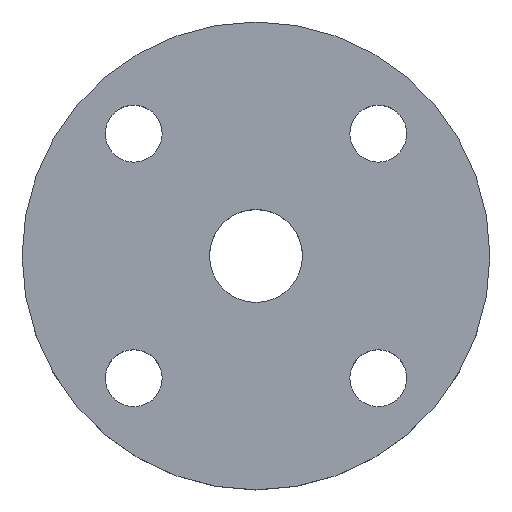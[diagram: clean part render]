
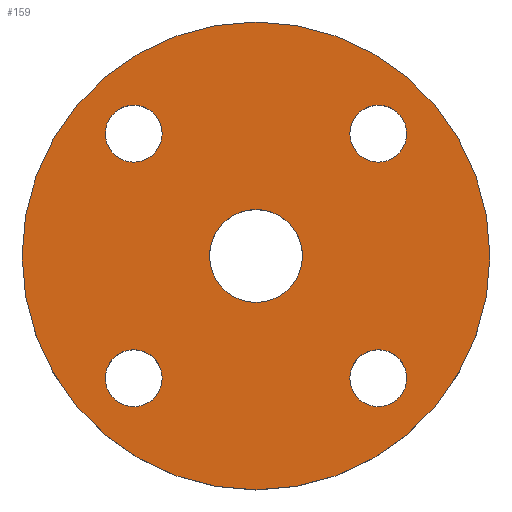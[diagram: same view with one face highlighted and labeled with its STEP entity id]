
A CAD part, top view. The second image highlights one B-rep face of the part: STEP entity #159.
In plain terms, the highlighted planar face has unit normal (0, 0, 1).
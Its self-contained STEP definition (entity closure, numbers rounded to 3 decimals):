
#5 = CIRCLE ( 'NONE', #183, 7. ) ;
#6 = EDGE_CURVE ( 'NONE', #451, #445, #265, .T. ) ;
#10 = AXIS2_PLACEMENT_3D ( 'NONE', #555, #556, #557 ) ;
#17 = AXIS2_PLACEMENT_3D ( 'NONE', #591, #593, #594 ) ;
#24 = AXIS2_PLACEMENT_3D ( 'NONE', #465, #466, #467 ) ;
#26 = CIRCLE ( 'NONE', #232, 7. ) ;
#30 = AXIS2_PLACEMENT_3D ( 'NONE', #188, #189, #190 ) ;
#35 = AXIS2_PLACEMENT_3D ( 'NONE', #177, #178, #182 ) ;
#45 = EDGE_CURVE ( 'NONE', #300, #297, #270, .T. ) ;
#57 = CIRCLE ( 'NONE', #592, 7. ) ;
#67 = EDGE_CURVE ( 'NONE', #313, #446, #5, .T. ) ;
#80 = CARTESIAN_POINT ( 'NONE',  ( 11.418, 0., 0. ) ) ;
#84 = CARTESIAN_POINT ( 'NONE',  ( 23.052, -30.052, 0. ) ) ;
#88 = EDGE_CURVE ( 'NONE', #296, #452, #171, .T. ) ;
#96 = AXIS2_PLACEMENT_3D ( 'NONE', #615, #616, #617 ) ;
#98 = AXIS2_PLACEMENT_3D ( 'NONE', #491, #492, #493 ) ;
#118 = CIRCLE ( 'NONE', #35, 7. ) ;
#119 = CARTESIAN_POINT ( 'NONE',  ( 37.052, 30.052, 0. ) ) ;
#138 = CARTESIAN_POINT ( 'NONE',  ( 23.052, 30.052, 0. ) ) ;
#146 = CARTESIAN_POINT ( 'NONE',  ( -37.052, -30.052, 0. ) ) ;
#147 = CARTESIAN_POINT ( 'NONE',  ( 57.5, 0., 0. ) ) ;
#151 = CARTESIAN_POINT ( 'NONE',  ( -57.5, 0., 0. ) ) ;
#155 = CARTESIAN_POINT ( 'NONE',  ( -23.052, 30.052, 0. ) ) ;
#159 = ADVANCED_FACE ( 'NONE', ( #547, #548, #549, #551, #552, #553 ), #554, .T. ) ;
#170 = AXIS2_PLACEMENT_3D ( 'NONE', #519, #520, #521 ) ;
#171 = CIRCLE ( 'NONE', #170, 7. ) ;
#177 = CARTESIAN_POINT ( 'NONE',  ( 30.052, -30.052, 0. ) ) ;
#178 = DIRECTION ( 'NONE',  ( 0., 0., -1. ) ) ;
#182 = DIRECTION ( 'NONE',  ( -1., 0., 0. ) ) ;
#183 = AXIS2_PLACEMENT_3D ( 'NONE', #512, #513, #514 ) ;
#185 = CARTESIAN_POINT ( 'NONE',  ( 30.052, 30.052, 0. ) ) ;
#186 = DIRECTION ( 'NONE',  ( 0., 0., -1. ) ) ;
#187 = DIRECTION ( 'NONE',  ( -1., 0., 0. ) ) ;
#188 = CARTESIAN_POINT ( 'NONE',  ( 0., 0., 0. ) ) ;
#189 = DIRECTION ( 'NONE',  ( 0., 0., 1. ) ) ;
#190 = DIRECTION ( 'NONE',  ( 1., 0., 0. ) ) ;
#203 = CIRCLE ( 'NONE', #17, 7. ) ;
#205 = CIRCLE ( 'NONE', #263, 7. ) ;
#215 = EDGE_CURVE ( 'NONE', #446, #313, #203, .T. ) ;
#222 = CARTESIAN_POINT ( 'NONE',  ( 37.052, -30.052, 0. ) ) ;
#224 = CARTESIAN_POINT ( 'NONE',  ( -11.418, 0., 0. ) ) ;
#225 = CARTESIAN_POINT ( 'NONE',  ( -37.052, 30.052, 0. ) ) ;
#232 = AXIS2_PLACEMENT_3D ( 'NONE', #640, #641, #642 ) ;
#239 = CIRCLE ( 'NONE', #96, 57.5 ) ;
#252 = CARTESIAN_POINT ( 'NONE',  ( -23.052, -30.052, 0. ) ) ;
#253 = EDGE_CURVE ( 'NONE', #452, #296, #578, .T. ) ;
#259 = AXIS2_PLACEMENT_3D ( 'NONE', #604, #605, #607 ) ;
#260 = EDGE_CURVE ( 'NONE', #297, #300, #239, .T. ) ;
#263 = AXIS2_PLACEMENT_3D ( 'NONE', #185, #186, #187 ) ;
#265 = CIRCLE ( 'NONE', #24, 11.418 ) ;
#268 = CIRCLE ( 'NONE', #30, 11.418 ) ;
#270 = CIRCLE ( 'NONE', #98, 57.5 ) ;
#275 = EDGE_CURVE ( 'NONE', #453, #444, #57, .T. ) ;
#278 = EDGE_CURVE ( 'NONE', #454, #293, #26, .T. ) ;
#293 = VERTEX_POINT ( 'NONE', #138 ) ;
#296 = VERTEX_POINT ( 'NONE', #146 ) ;
#297 = VERTEX_POINT ( 'NONE', #147 ) ;
#300 = VERTEX_POINT ( 'NONE', #151 ) ;
#311 = EDGE_LOOP ( 'NONE', ( #375, #376 ) ) ;
#313 = VERTEX_POINT ( 'NONE', #155 ) ;
#321 = EDGE_LOOP ( 'NONE', ( #371, #372 ) ) ;
#353 = EDGE_CURVE ( 'NONE', #444, #453, #118, .T. ) ;
#363 = EDGE_CURVE ( 'NONE', #293, #454, #205, .T. ) ;
#364 = ORIENTED_EDGE ( 'NONE', *, *, #353, .T. ) ;
#366 = ORIENTED_EDGE ( 'NONE', *, *, #275, .T. ) ;
#367 = EDGE_CURVE ( 'NONE', #445, #451, #268, .T. ) ;
#368 = ORIENTED_EDGE ( 'NONE', *, *, #253, .T. ) ;
#369 = ORIENTED_EDGE ( 'NONE', *, *, #88, .T. ) ;
#371 = ORIENTED_EDGE ( 'NONE', *, *, #67, .T. ) ;
#372 = ORIENTED_EDGE ( 'NONE', *, *, #215, .T. ) ;
#373 = ORIENTED_EDGE ( 'NONE', *, *, #278, .T. ) ;
#374 = ORIENTED_EDGE ( 'NONE', *, *, #363, .T. ) ;
#375 = ORIENTED_EDGE ( 'NONE', *, *, #6, .F. ) ;
#376 = ORIENTED_EDGE ( 'NONE', *, *, #367, .F. ) ;
#378 = ORIENTED_EDGE ( 'NONE', *, *, #260, .T. ) ;
#379 = ORIENTED_EDGE ( 'NONE', *, *, #45, .T. ) ;
#441 = EDGE_LOOP ( 'NONE', ( #364, #366 ) ) ;
#444 = VERTEX_POINT ( 'NONE', #222 ) ;
#445 = VERTEX_POINT ( 'NONE', #224 ) ;
#446 = VERTEX_POINT ( 'NONE', #225 ) ;
#447 = EDGE_LOOP ( 'NONE', ( #378, #379 ) ) ;
#448 = EDGE_LOOP ( 'NONE', ( #373, #374 ) ) ;
#450 = EDGE_LOOP ( 'NONE', ( #368, #369 ) ) ;
#451 = VERTEX_POINT ( 'NONE', #80 ) ;
#452 = VERTEX_POINT ( 'NONE', #252 ) ;
#453 = VERTEX_POINT ( 'NONE', #84 ) ;
#454 = VERTEX_POINT ( 'NONE', #119 ) ;
#465 = CARTESIAN_POINT ( 'NONE',  ( 0., 0., 0. ) ) ;
#466 = DIRECTION ( 'NONE',  ( 0., 0., 1. ) ) ;
#467 = DIRECTION ( 'NONE',  ( 1., 0., 0. ) ) ;
#491 = CARTESIAN_POINT ( 'NONE',  ( 0., 0., 0. ) ) ;
#492 = DIRECTION ( 'NONE',  ( 0., 0., 1. ) ) ;
#493 = DIRECTION ( 'NONE',  ( 1., 0., 0. ) ) ;
#512 = CARTESIAN_POINT ( 'NONE',  ( -30.052, 30.052, 0. ) ) ;
#513 = DIRECTION ( 'NONE',  ( 0., 0., -1. ) ) ;
#514 = DIRECTION ( 'NONE',  ( -1., 0., 0. ) ) ;
#519 = CARTESIAN_POINT ( 'NONE',  ( -30.052, -30.052, 0. ) ) ;
#520 = DIRECTION ( 'NONE',  ( 0., 0., -1. ) ) ;
#521 = DIRECTION ( 'NONE',  ( -1., 0., 0. ) ) ;
#547 = FACE_BOUND ( 'NONE', #441, .T. ) ;
#548 = FACE_BOUND ( 'NONE', #450, .T. ) ;
#549 = FACE_BOUND ( 'NONE', #321, .T. ) ;
#551 = FACE_BOUND ( 'NONE', #448, .T. ) ;
#552 = FACE_BOUND ( 'NONE', #311, .T. ) ;
#553 = FACE_OUTER_BOUND ( 'NONE', #447, .T. ) ;
#554 = PLANE ( 'NONE',  #10 ) ;
#555 = CARTESIAN_POINT ( 'NONE',  ( 0., 0., 0. ) ) ;
#556 = DIRECTION ( 'NONE',  ( 0., 0., 1. ) ) ;
#557 = DIRECTION ( 'NONE',  ( 1., 0., 0. ) ) ;
#578 = CIRCLE ( 'NONE', #259, 7. ) ;
#591 = CARTESIAN_POINT ( 'NONE',  ( -30.052, 30.052, 0. ) ) ;
#592 = AXIS2_PLACEMENT_3D ( 'NONE', #632, #633, #634 ) ;
#593 = DIRECTION ( 'NONE',  ( 0., 0., -1. ) ) ;
#594 = DIRECTION ( 'NONE',  ( -1., 0., 0. ) ) ;
#604 = CARTESIAN_POINT ( 'NONE',  ( -30.052, -30.052, 0. ) ) ;
#605 = DIRECTION ( 'NONE',  ( 0., 0., -1. ) ) ;
#607 = DIRECTION ( 'NONE',  ( -1., 0., 0. ) ) ;
#615 = CARTESIAN_POINT ( 'NONE',  ( 0., 0., 0. ) ) ;
#616 = DIRECTION ( 'NONE',  ( 0., 0., 1. ) ) ;
#617 = DIRECTION ( 'NONE',  ( 1., 0., 0. ) ) ;
#632 = CARTESIAN_POINT ( 'NONE',  ( 30.052, -30.052, 0. ) ) ;
#633 = DIRECTION ( 'NONE',  ( 0., 0., -1. ) ) ;
#634 = DIRECTION ( 'NONE',  ( -1., 0., 0. ) ) ;
#640 = CARTESIAN_POINT ( 'NONE',  ( 30.052, 30.052, 0. ) ) ;
#641 = DIRECTION ( 'NONE',  ( 0., 0., -1. ) ) ;
#642 = DIRECTION ( 'NONE',  ( -1., 0., 0. ) ) ;
